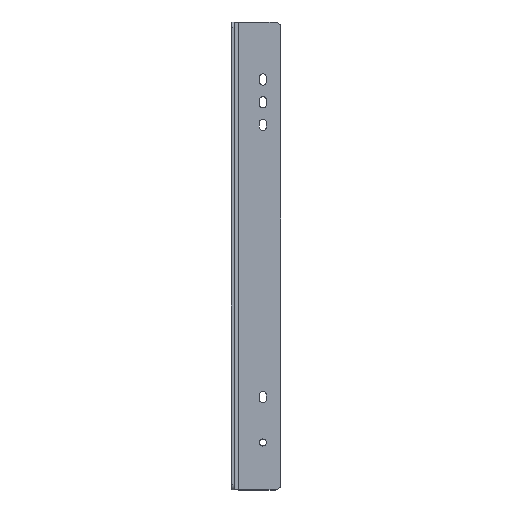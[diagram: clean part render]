
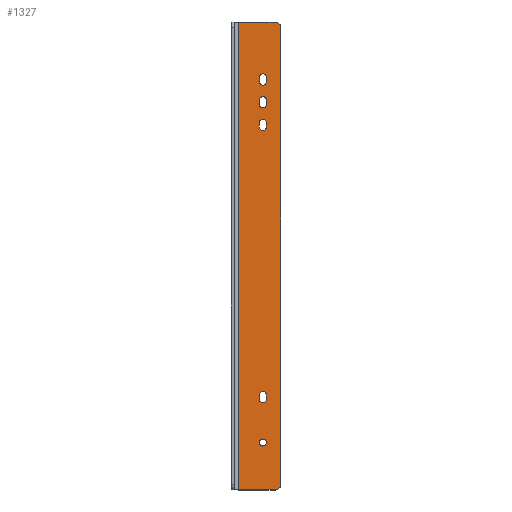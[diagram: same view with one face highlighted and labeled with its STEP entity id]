
A CAD part, top view. The second image highlights one B-rep face of the part: STEP entity #1327.
In plain terms, the highlighted planar face has unit normal (0, 0, 1).
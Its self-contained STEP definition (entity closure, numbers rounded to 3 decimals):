
#33=FACE_BOUND('',#225,.T.);
#34=FACE_BOUND('',#226,.T.);
#35=FACE_BOUND('',#227,.T.);
#36=FACE_BOUND('',#228,.T.);
#37=FACE_BOUND('',#229,.T.);
#77=PLANE('',#1459);
#141=FACE_OUTER_BOUND('',#224,.T.);
#224=EDGE_LOOP('',(#1158,#1159,#1160,#1161,#1162,#1163));
#225=EDGE_LOOP('',(#1164,#1165,#1166,#1167));
#226=EDGE_LOOP('',(#1168,#1169,#1170,#1171));
#227=EDGE_LOOP('',(#1172));
#228=EDGE_LOOP('',(#1173,#1174,#1175,#1176));
#229=EDGE_LOOP('',(#1177,#1178,#1179,#1180));
#246=LINE('',#1862,#366);
#250=LINE('',#1872,#370);
#254=LINE('',#1886,#374);
#258=LINE('',#1896,#378);
#262=LINE('',#1915,#382);
#266=LINE('',#1925,#386);
#270=LINE('',#1939,#390);
#274=LINE('',#1949,#394);
#343=LINE('',#2166,#463);
#351=LINE('',#2190,#471);
#360=LINE('',#2219,#480);
#361=LINE('',#2220,#481);
#366=VECTOR('',#1477,3.);
#370=VECTOR('',#1489,3.);
#374=VECTOR('',#1501,3.);
#378=VECTOR('',#1513,3.);
#382=VECTOR('',#1531,3.);
#386=VECTOR('',#1543,3.);
#390=VECTOR('',#1555,3.);
#394=VECTOR('',#1567,3.);
#463=VECTOR('',#1784,322.);
#471=VECTOR('',#1806,26.);
#480=VECTOR('',#1837,330.);
#481=VECTOR('',#1838,26.);
#484=CIRCLE('',#1335,2.5);
#486=CIRCLE('',#1339,2.5);
#488=CIRCLE('',#1343,2.5);
#490=CIRCLE('',#1347,2.5);
#492=CIRCLE('',#1351,2.5);
#494=CIRCLE('',#1354,2.5);
#496=CIRCLE('',#1358,2.5);
#498=CIRCLE('',#1362,2.5);
#500=CIRCLE('',#1366,2.5);
#537=CIRCLE('',#1439,4.);
#540=CIRCLE('',#1445,4.);
#551=VERTEX_POINT('',#1853);
#552=VERTEX_POINT('',#1855);
#554=VERTEX_POINT('',#1861);
#556=VERTEX_POINT('',#1867);
#559=VERTEX_POINT('',#1877);
#560=VERTEX_POINT('',#1879);
#562=VERTEX_POINT('',#1885);
#564=VERTEX_POINT('',#1891);
#566=VERTEX_POINT('',#1900);
#569=VERTEX_POINT('',#1906);
#570=VERTEX_POINT('',#1908);
#572=VERTEX_POINT('',#1914);
#574=VERTEX_POINT('',#1920);
#577=VERTEX_POINT('',#1930);
#578=VERTEX_POINT('',#1932);
#580=VERTEX_POINT('',#1938);
#582=VERTEX_POINT('',#1944);
#651=VERTEX_POINT('',#2153);
#652=VERTEX_POINT('',#2154);
#656=VERTEX_POINT('',#2164);
#660=VERTEX_POINT('',#2176);
#665=VERTEX_POINT('',#2188);
#674=VERTEX_POINT('',#2218);
#677=EDGE_CURVE('',#552,#551,#484,.T.);
#680=EDGE_CURVE('',#554,#552,#246,.T.);
#683=EDGE_CURVE('',#556,#554,#486,.T.);
#686=EDGE_CURVE('',#551,#556,#250,.T.);
#689=EDGE_CURVE('',#560,#559,#488,.T.);
#692=EDGE_CURVE('',#562,#560,#254,.T.);
#695=EDGE_CURVE('',#564,#562,#490,.T.);
#698=EDGE_CURVE('',#559,#564,#258,.T.);
#700=EDGE_CURVE('',#566,#566,#492,.T.);
#703=EDGE_CURVE('',#570,#569,#494,.T.);
#706=EDGE_CURVE('',#572,#570,#262,.T.);
#709=EDGE_CURVE('',#574,#572,#496,.T.);
#712=EDGE_CURVE('',#569,#574,#266,.T.);
#715=EDGE_CURVE('',#578,#577,#498,.T.);
#718=EDGE_CURVE('',#580,#578,#270,.T.);
#721=EDGE_CURVE('',#582,#580,#500,.T.);
#724=EDGE_CURVE('',#577,#582,#274,.T.);
#825=EDGE_CURVE('',#651,#652,#537,.T.);
#831=EDGE_CURVE('',#651,#656,#343,.T.);
#837=EDGE_CURVE('',#660,#656,#540,.T.);
#843=EDGE_CURVE('',#665,#660,#351,.T.);
#857=EDGE_CURVE('',#674,#665,#360,.T.);
#858=EDGE_CURVE('',#652,#674,#361,.T.);
#1158=ORIENTED_EDGE('',*,*,#825,.F.);
#1159=ORIENTED_EDGE('',*,*,#831,.T.);
#1160=ORIENTED_EDGE('',*,*,#837,.F.);
#1161=ORIENTED_EDGE('',*,*,#843,.F.);
#1162=ORIENTED_EDGE('',*,*,#857,.F.);
#1163=ORIENTED_EDGE('',*,*,#858,.F.);
#1164=ORIENTED_EDGE('',*,*,#683,.T.);
#1165=ORIENTED_EDGE('',*,*,#680,.T.);
#1166=ORIENTED_EDGE('',*,*,#677,.T.);
#1167=ORIENTED_EDGE('',*,*,#686,.T.);
#1168=ORIENTED_EDGE('',*,*,#695,.T.);
#1169=ORIENTED_EDGE('',*,*,#692,.T.);
#1170=ORIENTED_EDGE('',*,*,#689,.T.);
#1171=ORIENTED_EDGE('',*,*,#698,.T.);
#1172=ORIENTED_EDGE('',*,*,#700,.T.);
#1173=ORIENTED_EDGE('',*,*,#709,.T.);
#1174=ORIENTED_EDGE('',*,*,#706,.T.);
#1175=ORIENTED_EDGE('',*,*,#703,.T.);
#1176=ORIENTED_EDGE('',*,*,#712,.T.);
#1177=ORIENTED_EDGE('',*,*,#721,.T.);
#1178=ORIENTED_EDGE('',*,*,#718,.T.);
#1179=ORIENTED_EDGE('',*,*,#715,.T.);
#1180=ORIENTED_EDGE('',*,*,#724,.T.);
#1327=ADVANCED_FACE('',(#141,#33,#34,#35,#36,#37),#77,.T.);
#1335=AXIS2_PLACEMENT_3D('',#1856,#1471,#1472);
#1339=AXIS2_PLACEMENT_3D('',#1868,#1483,#1484);
#1343=AXIS2_PLACEMENT_3D('',#1880,#1495,#1496);
#1347=AXIS2_PLACEMENT_3D('',#1892,#1507,#1508);
#1351=AXIS2_PLACEMENT_3D('',#1901,#1518,#1519);
#1354=AXIS2_PLACEMENT_3D('',#1909,#1525,#1526);
#1358=AXIS2_PLACEMENT_3D('',#1921,#1537,#1538);
#1362=AXIS2_PLACEMENT_3D('',#1933,#1549,#1550);
#1366=AXIS2_PLACEMENT_3D('',#1945,#1561,#1562);
#1439=AXIS2_PLACEMENT_3D('',#2155,#1774,#1775);
#1445=AXIS2_PLACEMENT_3D('',#2178,#1795,#1796);
#1459=AXIS2_PLACEMENT_3D('',#2217,#1835,#1836);
#1471=DIRECTION('center_axis',(0.,0.,-1.));
#1472=DIRECTION('ref_axis',(-1.,0.,0.));
#1477=DIRECTION('',(0.,-1.,0.));
#1483=DIRECTION('center_axis',(0.,0.,-1.));
#1484=DIRECTION('ref_axis',(1.,0.,0.));
#1489=DIRECTION('',(0.,1.,0.));
#1495=DIRECTION('center_axis',(0.,0.,-1.));
#1496=DIRECTION('ref_axis',(-1.,0.,0.));
#1501=DIRECTION('',(0.,-1.,0.));
#1507=DIRECTION('center_axis',(0.,0.,-1.));
#1508=DIRECTION('ref_axis',(1.,0.,0.));
#1513=DIRECTION('',(0.,1.,0.));
#1518=DIRECTION('center_axis',(0.,0.,-1.));
#1519=DIRECTION('ref_axis',(-1.,0.,0.));
#1525=DIRECTION('center_axis',(0.,0.,-1.));
#1526=DIRECTION('ref_axis',(-1.,0.,0.));
#1531=DIRECTION('',(0.,-1.,0.));
#1537=DIRECTION('center_axis',(0.,0.,-1.));
#1538=DIRECTION('ref_axis',(1.,0.,0.));
#1543=DIRECTION('',(0.,1.,0.));
#1549=DIRECTION('center_axis',(0.,0.,-1.));
#1550=DIRECTION('ref_axis',(-1.,0.,0.));
#1555=DIRECTION('',(0.,-1.,0.));
#1561=DIRECTION('center_axis',(0.,0.,-1.));
#1562=DIRECTION('ref_axis',(1.,0.,0.));
#1567=DIRECTION('',(0.,1.,0.));
#1774=DIRECTION('center_axis',(0.,0.,-1.));
#1775=DIRECTION('ref_axis',(0.707,-0.707,0.));
#1784=DIRECTION('',(0.,1.,0.));
#1795=DIRECTION('center_axis',(0.,0.,-1.));
#1796=DIRECTION('ref_axis',(0.707,0.707,0.));
#1806=DIRECTION('',(1.,0.,0.));
#1835=DIRECTION('center_axis',(0.,0.,1.));
#1836=DIRECTION('ref_axis',(1.,0.,0.));
#1837=DIRECTION('',(0.,1.,0.));
#1838=DIRECTION('',(-1.,0.,0.));
#1853=CARTESIAN_POINT('',(19.8,272.,2.));
#1855=CARTESIAN_POINT('',(24.8,272.,2.));
#1856=CARTESIAN_POINT('Origin',(22.3,272.,2.));
#1861=CARTESIAN_POINT('',(24.8,275.,2.));
#1862=CARTESIAN_POINT('',(24.8,137.5,2.));
#1867=CARTESIAN_POINT('',(19.8,275.,2.));
#1868=CARTESIAN_POINT('Origin',(22.3,275.,2.));
#1872=CARTESIAN_POINT('',(19.8,136.,2.));
#1877=CARTESIAN_POINT('',(19.8,64.,2.));
#1879=CARTESIAN_POINT('',(24.8,64.,2.));
#1880=CARTESIAN_POINT('Origin',(22.3,64.,2.));
#1885=CARTESIAN_POINT('',(24.8,67.,2.));
#1886=CARTESIAN_POINT('',(24.8,33.5,2.));
#1891=CARTESIAN_POINT('',(19.8,67.,2.));
#1892=CARTESIAN_POINT('Origin',(22.3,67.,2.));
#1896=CARTESIAN_POINT('',(19.8,32.,2.));
#1900=CARTESIAN_POINT('',(24.8,33.5,2.));
#1901=CARTESIAN_POINT('Origin',(22.3,33.5,2.));
#1906=CARTESIAN_POINT('',(19.8,256.,2.));
#1908=CARTESIAN_POINT('',(24.8,256.,2.));
#1909=CARTESIAN_POINT('Origin',(22.3,256.,2.));
#1914=CARTESIAN_POINT('',(24.8,259.,2.));
#1915=CARTESIAN_POINT('',(24.8,129.5,2.));
#1920=CARTESIAN_POINT('',(19.8,259.,2.));
#1921=CARTESIAN_POINT('Origin',(22.3,259.,2.));
#1925=CARTESIAN_POINT('',(19.8,128.,2.));
#1930=CARTESIAN_POINT('',(19.8,288.,2.));
#1932=CARTESIAN_POINT('',(24.8,288.,2.));
#1933=CARTESIAN_POINT('Origin',(22.3,288.,2.));
#1938=CARTESIAN_POINT('',(24.8,291.,2.));
#1939=CARTESIAN_POINT('',(24.8,145.5,2.));
#1944=CARTESIAN_POINT('',(19.8,291.,2.));
#1945=CARTESIAN_POINT('Origin',(22.3,291.,2.));
#1949=CARTESIAN_POINT('',(19.8,144.,2.));
#2153=CARTESIAN_POINT('',(35.,4.,2.));
#2154=CARTESIAN_POINT('',(31.,0.,2.));
#2155=CARTESIAN_POINT('Origin',(31.,4.,2.));
#2164=CARTESIAN_POINT('',(35.,326.,2.));
#2166=CARTESIAN_POINT('',(35.,0.,2.));
#2176=CARTESIAN_POINT('',(31.,330.,2.));
#2178=CARTESIAN_POINT('Origin',(31.,326.,2.));
#2188=CARTESIAN_POINT('',(5.,330.,2.));
#2190=CARTESIAN_POINT('',(35.,330.,2.));
#2217=CARTESIAN_POINT('Origin',(5.,0.,2.));
#2218=CARTESIAN_POINT('',(5.,0.,2.));
#2219=CARTESIAN_POINT('',(5.,0.,2.));
#2220=CARTESIAN_POINT('',(35.,0.,2.));
